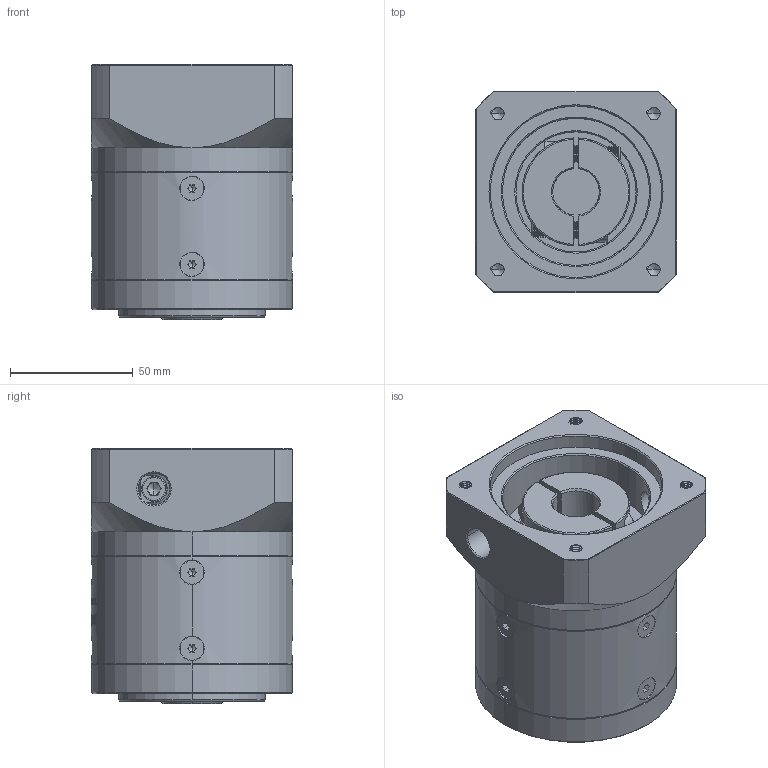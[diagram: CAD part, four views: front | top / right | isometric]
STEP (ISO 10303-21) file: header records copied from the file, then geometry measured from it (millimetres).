
FILE_DESCRIPTION (( 'STEP AP214' ), '1' );
FILE_NAME ('ZE80-K15-L1-19-70-90-M6.step', '2022-05-08T05:57:00', ( '' ), ( 'Microsoft' ), 'SwSTEP 2.0', 'SolidWorks 2016', '' );
FILE_SCHEMA (( 'AUTOMOTIVE_DESIGN' ));
Length unit declared in the file: millimetre
Products named in the file (1): ZE80-K15-L1-19-70-90-M6
Bounding box: 82 x 82 x 104 mm (x, y, z)
Volume: 488396.4 mm3; surface area: 81485.9 mm2
Topology: 13 solids, 13 shells, 2016 faces, 5258 edges, 3329 vertices
Faces by surface type: plane 879, cylinder 473, cone 325, bspline 322, torus 17
Entity records: 112380 total; most frequent: CARTESIAN_POINT 44869, ORIENTED_EDGE 10444, DIRECTION 8067, EDGE_CURVE 5222, VERTEX_POINT 3329, LINE 2815, VECTOR 2815, AXIS2_PLACEMENT_3D 2626
